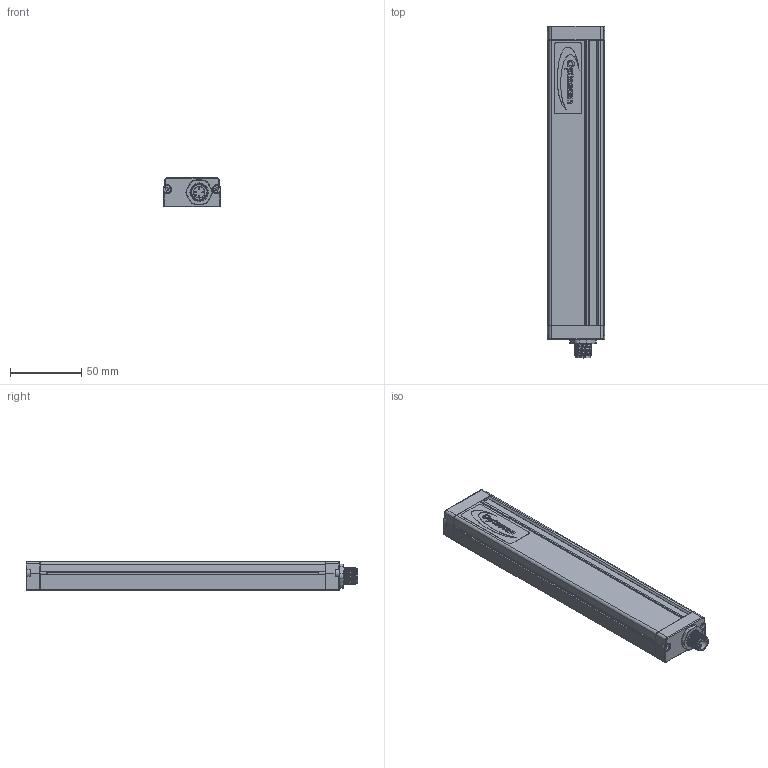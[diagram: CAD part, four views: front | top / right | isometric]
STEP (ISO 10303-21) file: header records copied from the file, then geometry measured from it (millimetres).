
FILE_DESCRIPTION(/* description */ (''),/* implementation_level */ '2;1');
FILE_NAME(/* name */ 'C:\Users\Andrea\SynologyDrive\Optoscan\Libreria Componenti\00 - Barriere\Barriera sorgente\Barriera RX\Argo_200_RX.stp',/* time_stamp */ '2022-06-30T15:46:32+02:00',/* author */ ('Andrea'),/* organization */ (''),/* preprocessor_version */ 'ST-DEVELOPER v18.1',/* originating_system */ 'Autodesk Inventor 2022',/* authorisation */ '');
FILE_SCHEMA (('AUTOMOTIVE_DESIGN { 1 0 10303 214 3 1 1 }'));
Length unit declared in the file: millimetre
Products named in the file (1): Argo_200_RX
Bounding box: 40.5 x 232.8 x 20.75 mm (x, y, z)
Volume: 50114.6 mm3; surface area: 62478.5 mm2
Topology: 1 solids, 2 shells, 753 faces, 2017 edges, 1278 vertices
Faces by surface type: plane 336, cylinder 216, bspline 115, torus 72, cone 8, sphere 6
Full cylindrical faces by diameter (mm): 1 x12, 1.2 x4, 2.459 x4, 2.5 x4, 3 x4, 3.5 x4, 5.5 x4, 8 x1, 10 x1, 10.5 x2, 11.75 x8, 12 x1, 12.3 x3, 14.5 x1, 16.7 x1, 17.5 x1
Entity records: 30151 total; most frequent: CARTESIAN_POINT 11037, ORIENTED_EDGE 4018, DIRECTION 3500, EDGE_CURVE 2009, VERTEX_POINT 1278, AXIS2_PLACEMENT_3D 1219, LINE 1062, VECTOR 1062
